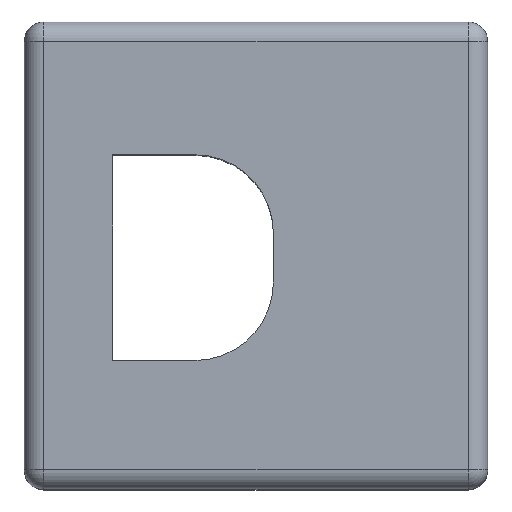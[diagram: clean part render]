
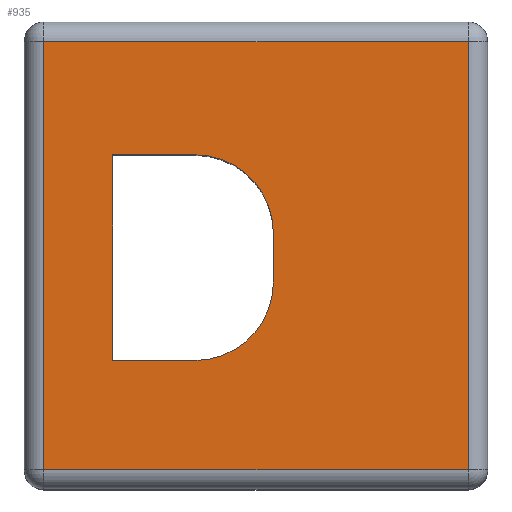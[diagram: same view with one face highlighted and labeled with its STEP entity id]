
A CAD part, top view. The second image highlights one B-rep face of the part: STEP entity #935.
In plain terms, the highlighted planar face has unit normal (0, 0, 1).
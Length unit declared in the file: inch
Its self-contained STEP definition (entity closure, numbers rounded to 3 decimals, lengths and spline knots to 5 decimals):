
#42 = DIRECTION ( 'NONE',  ( -1., 0., 0. ) ) ;
#46 = LINE ( 'NONE', #1660, #1465 ) ;
#50 = EDGE_CURVE ( 'NONE', #1259, #825, #816, .T. ) ;
#55 = CARTESIAN_POINT ( 'NONE',  ( -0.29415, 0.4, 0.24335 ) ) ;
#148 = CARTESIAN_POINT ( 'NONE',  ( -0.31915, 0.45, 0.24335 ) ) ;
#151 = VERTEX_POINT ( 'NONE', #330 ) ;
#154 = CIRCLE ( 'NONE', #1144, 0.1 ) ;
#159 = VECTOR ( 'NONE', #318, 39.37008 ) ;
#162 = ORIENTED_EDGE ( 'NONE', *, *, #642, .T. ) ;
#168 = ORIENTED_EDGE ( 'NONE', *, *, #1162, .T. ) ;
#185 = CARTESIAN_POINT ( 'NONE',  ( -0.20665, 0.04402, 0.24335 ) ) ;
#206 = DIRECTION ( 'NONE',  ( 0., 0., -1. ) ) ;
#248 = ORIENTED_EDGE ( 'NONE', *, *, #262, .T. ) ;
#255 = EDGE_CURVE ( 'NONE', #1582, #939, #497, .T. ) ;
#259 = DIRECTION ( 'NONE',  ( -1., 0., 0. ) ) ;
#262 = EDGE_CURVE ( 'NONE', #939, #1259, #375, .T. ) ;
#269 = ORIENTED_EDGE ( 'NONE', *, *, #255, .T. ) ;
#296 = LINE ( 'NONE', #545, #312 ) ;
#309 = AXIS2_PLACEMENT_3D ( 'NONE', #1779, #1075, #259 ) ;
#312 = VECTOR ( 'NONE', #821, 39.37008 ) ;
#318 = DIRECTION ( 'NONE',  ( 0., 1., 0. ) ) ;
#330 = CARTESIAN_POINT ( 'NONE',  ( -0.00197, 0.14402, 0.24335 ) ) ;
#334 = VERTEX_POINT ( 'NONE', #1296 ) ;
#340 = ORIENTED_EDGE ( 'NONE', *, *, #975, .T. ) ;
#363 = DIRECTION ( 'NONE',  ( 0., 1., 0. ) ) ;
#375 = LINE ( 'NONE', #787, #1555 ) ;
#385 = CARTESIAN_POINT ( 'NONE',  ( 0.24585, 0.45, 0.24335 ) ) ;
#428 = DIRECTION ( 'NONE',  ( 0., 0., -1. ) ) ;
#497 = LINE ( 'NONE', #1620, #628 ) ;
#528 = PLANE ( 'NONE',  #309 ) ;
#545 = CARTESIAN_POINT ( 'NONE',  ( -0.00197, 0.30598, 0.24335 ) ) ;
#572 = CARTESIAN_POINT ( 'NONE',  ( -0.10197, 0.30598, 0.24335 ) ) ;
#575 = DIRECTION ( 'NONE',  ( -1., 0., 0. ) ) ;
#628 = VECTOR ( 'NONE', #1753, 39.37008 ) ;
#642 = EDGE_CURVE ( 'NONE', #1528, #1179, #46, .T. ) ;
#657 = FACE_OUTER_BOUND ( 'NONE', #1110, .T. ) ;
#685 = DIRECTION ( 'NONE',  ( -1., 0., 0. ) ) ;
#740 = EDGE_CURVE ( 'NONE', #1035, #1220, #154, .T. ) ;
#787 = CARTESIAN_POINT ( 'NONE',  ( 0.24585, 0.4, 0.24335 ) ) ;
#816 = LINE ( 'NONE', #148, #1497 ) ;
#821 = DIRECTION ( 'NONE',  ( 1., 0., 0. ) ) ;
#825 = VERTEX_POINT ( 'NONE', #1564 ) ;
#852 = CARTESIAN_POINT ( 'NONE',  ( -0.10197, 0.04402, 0.24335 ) ) ;
#868 = CARTESIAN_POINT ( 'NONE',  ( -0.00197, 0.20598, 0.24335 ) ) ;
#935 = ADVANCED_FACE ( 'NONE', ( #657, #1640 ), #528, .F. ) ;
#939 = VERTEX_POINT ( 'NONE', #1178 ) ;
#975 = EDGE_CURVE ( 'NONE', #1220, #151, #1628, .T. ) ;
#1035 = VERTEX_POINT ( 'NONE', #572 ) ;
#1075 = DIRECTION ( 'NONE',  ( 0., 0., -1. ) ) ;
#1078 = EDGE_LOOP ( 'NONE', ( #340, #1168, #162, #168, #1226, #1193 ) ) ;
#1109 = CARTESIAN_POINT ( 'NONE',  ( -0.10197, 0.20598, 0.24335 ) ) ;
#1110 = EDGE_LOOP ( 'NONE', ( #1655, #1447, #269, #248 ) ) ;
#1125 = CIRCLE ( 'NONE', #1537, 0.1 ) ;
#1144 = AXIS2_PLACEMENT_3D ( 'NONE', #1109, #428, #575 ) ;
#1154 = LINE ( 'NONE', #185, #159 ) ;
#1162 = EDGE_CURVE ( 'NONE', #1179, #334, #1154, .T. ) ;
#1168 = ORIENTED_EDGE ( 'NONE', *, *, #1596, .T. ) ;
#1178 = CARTESIAN_POINT ( 'NONE',  ( 0.24585, -0.095, 0.24335 ) ) ;
#1179 = VERTEX_POINT ( 'NONE', #1696 ) ;
#1193 = ORIENTED_EDGE ( 'NONE', *, *, #740, .T. ) ;
#1200 = DIRECTION ( 'NONE',  ( 0., -1., 0. ) ) ;
#1211 = VECTOR ( 'NONE', #1724, 39.37008 ) ;
#1214 = EDGE_CURVE ( 'NONE', #825, #1582, #1282, .T. ) ;
#1220 = VERTEX_POINT ( 'NONE', #868 ) ;
#1226 = ORIENTED_EDGE ( 'NONE', *, *, #1390, .T. ) ;
#1259 = VERTEX_POINT ( 'NONE', #385 ) ;
#1282 = LINE ( 'NONE', #55, #1211 ) ;
#1290 = CARTESIAN_POINT ( 'NONE',  ( -0.10197, 0.14402, 0.24335 ) ) ;
#1296 = CARTESIAN_POINT ( 'NONE',  ( -0.20665, 0.30598, 0.24335 ) ) ;
#1348 = DIRECTION ( 'NONE',  ( -1., 0., 0. ) ) ;
#1390 = EDGE_CURVE ( 'NONE', #334, #1035, #296, .T. ) ;
#1447 = ORIENTED_EDGE ( 'NONE', *, *, #1214, .T. ) ;
#1465 = VECTOR ( 'NONE', #685, 39.37008 ) ;
#1491 = CARTESIAN_POINT ( 'NONE',  ( -0.00197, 0.04402, 0.24335 ) ) ;
#1497 = VECTOR ( 'NONE', #1348, 39.37008 ) ;
#1528 = VERTEX_POINT ( 'NONE', #852 ) ;
#1537 = AXIS2_PLACEMENT_3D ( 'NONE', #1290, #206, #42 ) ;
#1555 = VECTOR ( 'NONE', #363, 39.37008 ) ;
#1564 = CARTESIAN_POINT ( 'NONE',  ( -0.29415, 0.45, 0.24335 ) ) ;
#1566 = CARTESIAN_POINT ( 'NONE',  ( -0.29415, -0.095, 0.24335 ) ) ;
#1582 = VERTEX_POINT ( 'NONE', #1566 ) ;
#1596 = EDGE_CURVE ( 'NONE', #151, #1528, #1125, .T. ) ;
#1620 = CARTESIAN_POINT ( 'NONE',  ( -0.31915, -0.095, 0.24335 ) ) ;
#1628 = LINE ( 'NONE', #1491, #1767 ) ;
#1640 = FACE_BOUND ( 'NONE', #1078, .T. ) ;
#1655 = ORIENTED_EDGE ( 'NONE', *, *, #50, .T. ) ;
#1660 = CARTESIAN_POINT ( 'NONE',  ( -0.00197, 0.04402, 0.24335 ) ) ;
#1696 = CARTESIAN_POINT ( 'NONE',  ( -0.20665, 0.04402, 0.24335 ) ) ;
#1724 = DIRECTION ( 'NONE',  ( 0., -1., 0. ) ) ;
#1753 = DIRECTION ( 'NONE',  ( 1., 0., 0. ) ) ;
#1767 = VECTOR ( 'NONE', #1200, 39.37008 ) ;
#1779 = CARTESIAN_POINT ( 'NONE',  ( -0.31915, 0.4, 0.24335 ) ) ;
